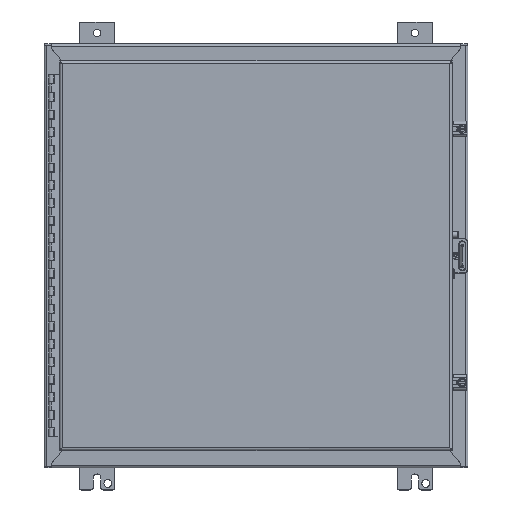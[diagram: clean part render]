
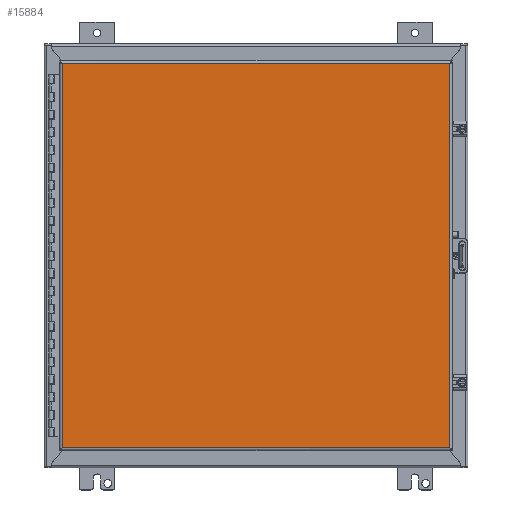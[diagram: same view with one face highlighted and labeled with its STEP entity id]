
A CAD part, top view. The second image highlights one B-rep face of the part: STEP entity #15884.
In plain terms, the highlighted planar face has unit normal (0, 0, 1) as drawn and (0, 1, 0) by its records, which use the part's own axes.
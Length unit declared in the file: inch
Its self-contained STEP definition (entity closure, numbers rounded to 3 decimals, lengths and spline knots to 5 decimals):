
#14391=DIRECTION('',(0.,0.,1.));
#14392=VECTOR('',#14391,21.96);
#14393=CARTESIAN_POINT('',(-10.88638,0.,0.145));
#14394=LINE('',#14393,#14392);
#14445=DIRECTION('',(0.,0.,1.));
#14446=VECTOR('',#14445,21.96);
#14447=CARTESIAN_POINT('',(10.88638,0.,0.145));
#14448=LINE('',#14447,#14446);
#14555=DIRECTION('',(-1.,0.,0.));
#14556=VECTOR('',#14555,21.77275);
#14557=CARTESIAN_POINT('',(10.88638,0.,0.145));
#14558=LINE('',#14557,#14556);
#15063=DIRECTION('',(-1.,0.,0.));
#15064=VECTOR('',#15063,21.77275);
#15065=CARTESIAN_POINT('',(10.88638,0.,22.105));
#15066=LINE('',#15065,#15064);
#15291=CARTESIAN_POINT('',(10.88638,0.,0.145));
#15292=CARTESIAN_POINT('',(-10.88638,0.,0.145));
#15293=VERTEX_POINT('',#15291);
#15294=VERTEX_POINT('',#15292);
#15295=CARTESIAN_POINT('',(10.88638,0.,22.105));
#15296=CARTESIAN_POINT('',(-10.88638,0.,22.105));
#15297=VERTEX_POINT('',#15295);
#15298=VERTEX_POINT('',#15296);
#15870=CARTESIAN_POINT('',(11.03138,0.,0.));
#15871=DIRECTION('',(0.,1.,0.));
#15872=DIRECTION('',(-1.,0.,0.));
#15873=AXIS2_PLACEMENT_3D('',#15870,#15871,#15872);
#15874=PLANE('',#15873);
#15876=ORIENTED_EDGE('',*,*,#15875,.T.);
#15878=ORIENTED_EDGE('',*,*,#15877,.T.);
#15879=ORIENTED_EDGE('',*,*,#15860,.F.);
#15881=ORIENTED_EDGE('',*,*,#15880,.F.);
#15882=EDGE_LOOP('',(#15876,#15878,#15879,#15881));
#15883=FACE_OUTER_BOUND('',#15882,.F.);
#15860=EDGE_CURVE('',#15294,#15298,#14394,.T.);
#15875=EDGE_CURVE('',#15293,#15297,#14448,.T.);
#15877=EDGE_CURVE('',#15297,#15298,#15066,.T.);
#15880=EDGE_CURVE('',#15293,#15294,#14558,.T.);
#15884=ADVANCED_FACE('',(#15883),#15874,.T.);
